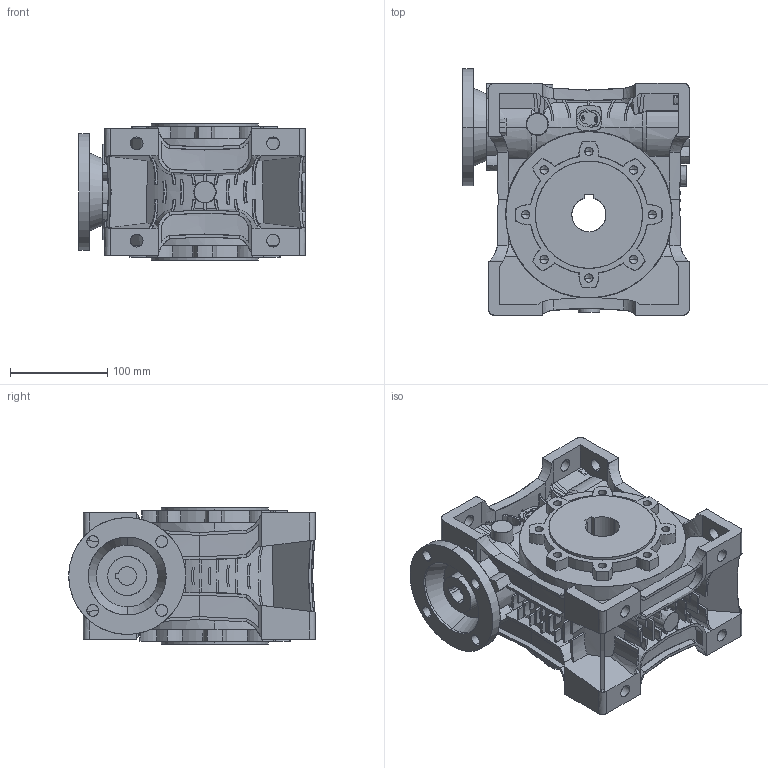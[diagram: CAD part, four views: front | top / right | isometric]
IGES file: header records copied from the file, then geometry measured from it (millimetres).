
Start section: SolidWorks IGES file using analytic representation for surfaces
Global section: file name: E:\Final Worm GBX For Motive\Worm GBX 3D\BOX090\BOX90PAM80B14.IGS; native system: SolidWorks 2012; preprocessor: SolidWorks 2012; author: Tahir Momin; date: 131228.095329; units: millimetre
Bounding box: 232.5 x 253 x 140 mm (x, y, z)
Surface area: 416280 mm2 (no closed solid volume)
Topology: 0 solids, 0 shells, 1476 faces, 12068 edges, 12033 vertices
Faces by surface type: revolution 785, bspline 691
